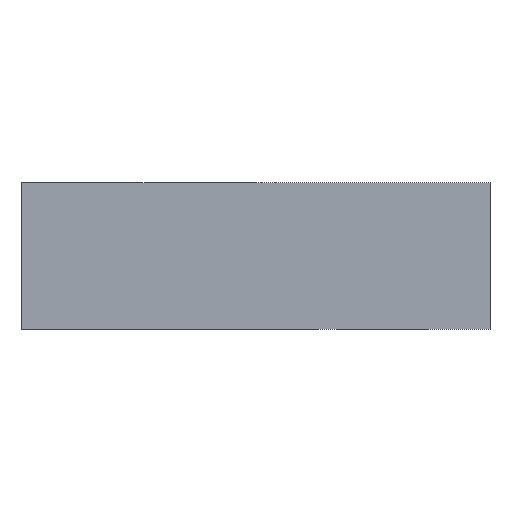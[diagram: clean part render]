
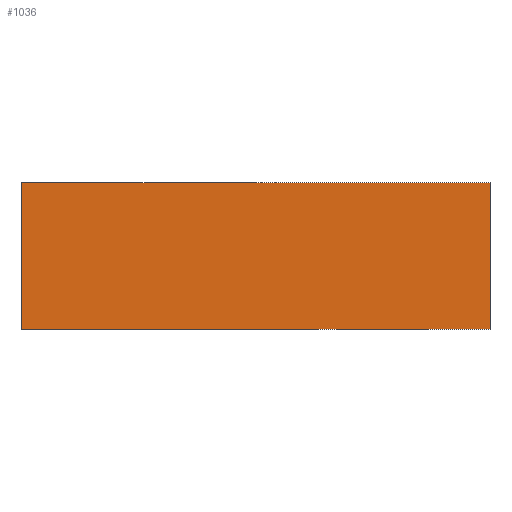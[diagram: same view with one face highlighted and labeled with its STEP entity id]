
A CAD part, front view. The second image highlights one B-rep face of the part: STEP entity #1036.
In plain terms, the highlighted planar face has unit normal (0, -1, 0).
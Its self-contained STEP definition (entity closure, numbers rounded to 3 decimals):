
#41 = ORIENTED_EDGE ( 'NONE', *, *, #260, .F. ) ;
#51 = ORIENTED_EDGE ( 'NONE', *, *, #762, .T. ) ;
#115 = ORIENTED_EDGE ( 'NONE', *, *, #1059, .F. ) ;
#147 = ORIENTED_EDGE ( 'NONE', *, *, #261, .T. ) ;
#153 = EDGE_LOOP ( 'NONE', ( #51, #115, #41, #147 ) ) ;
#260 = EDGE_CURVE ( 'NONE', #774, #770, #539, .T. ) ;
#261 = EDGE_CURVE ( 'NONE', #774, #807, #537, .T. ) ;
#289 = LINE ( 'NONE', #382, #626 ) ;
#326 = CARTESIAN_POINT ( 'NONE',  ( 104., 0., 0. ) ) ;
#335 = CARTESIAN_POINT ( 'NONE',  ( -104., 0., 0. ) ) ;
#374 = CARTESIAN_POINT ( 'NONE',  ( 104., 0., 65. ) ) ;
#377 = DIRECTION ( 'NONE',  ( 1., 0., 0. ) ) ;
#378 = CARTESIAN_POINT ( 'NONE',  ( -104., 0., 65. ) ) ;
#382 = CARTESIAN_POINT ( 'NONE',  ( -104., 0., 0. ) ) ;
#532 = VECTOR ( 'NONE', #856, 1000. ) ;
#534 = VECTOR ( 'NONE', #854, 1000. ) ;
#537 = LINE ( 'NONE', #853, #532 ) ;
#539 = LINE ( 'NONE', #851, #534 ) ;
#583 = AXIS2_PLACEMENT_3D ( 'NONE', #1122, #1128, #1129 ) ;
#626 = VECTOR ( 'NONE', #377, 1000. ) ;
#654 = FACE_OUTER_BOUND ( 'NONE', #153, .T. ) ;
#672 = LINE ( 'NONE', #1184, #673 ) ;
#673 = VECTOR ( 'NONE', #1185, 1000. ) ;
#762 = EDGE_CURVE ( 'NONE', #807, #816, #289, .T. ) ;
#770 = VERTEX_POINT ( 'NONE', #374 ) ;
#774 = VERTEX_POINT ( 'NONE', #378 ) ;
#807 = VERTEX_POINT ( 'NONE', #335 ) ;
#816 = VERTEX_POINT ( 'NONE', #326 ) ;
#851 = CARTESIAN_POINT ( 'NONE',  ( -104., 0., 65. ) ) ;
#853 = CARTESIAN_POINT ( 'NONE',  ( -104., 0., 65. ) ) ;
#854 = DIRECTION ( 'NONE',  ( 1., 0., 0. ) ) ;
#856 = DIRECTION ( 'NONE',  ( 0., 0., -1. ) ) ;
#1036 = ADVANCED_FACE ( 'NONE', ( #654 ), #1119, .F. ) ;
#1059 = EDGE_CURVE ( 'NONE', #770, #816, #672, .T. ) ;
#1119 = PLANE ( 'NONE',  #583 ) ;
#1122 = CARTESIAN_POINT ( 'NONE',  ( -104., 0., 65. ) ) ;
#1128 = DIRECTION ( 'NONE',  ( 0., 1., 0. ) ) ;
#1129 = DIRECTION ( 'NONE',  ( -1., 0., 0. ) ) ;
#1184 = CARTESIAN_POINT ( 'NONE',  ( 104., 0., 65. ) ) ;
#1185 = DIRECTION ( 'NONE',  ( 0., 0., -1. ) ) ;
